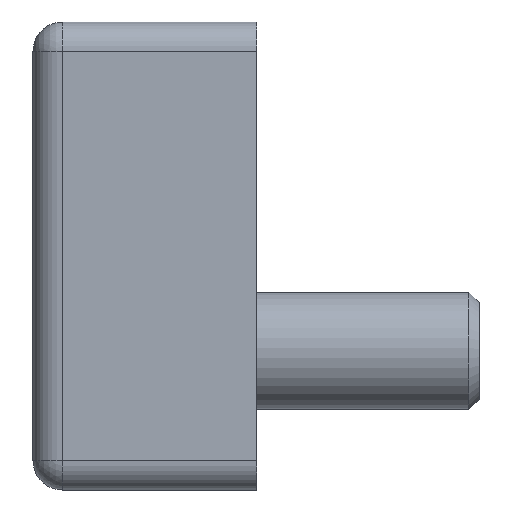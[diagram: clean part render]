
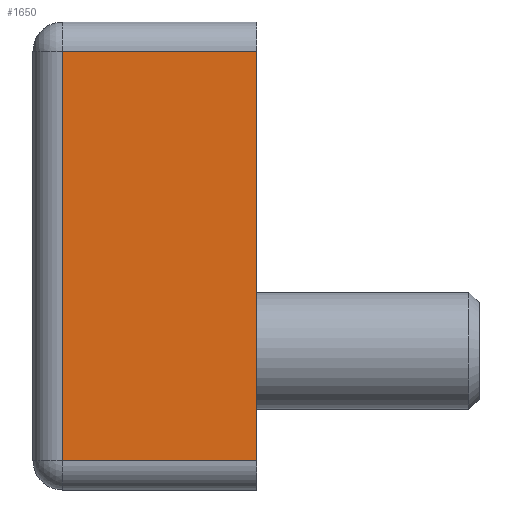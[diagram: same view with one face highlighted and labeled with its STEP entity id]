
A CAD part, left-side view. The second image highlights one B-rep face of the part: STEP entity #1650.
In plain terms, the highlighted planar face has unit normal (-1, 0, 0).
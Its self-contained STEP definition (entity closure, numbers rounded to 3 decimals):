
#45 = EDGE_LOOP ( 'NONE', ( #2270, #435, #2021, #2615 ) ) ;
#52 = LINE ( 'NONE', #1999, #224 ) ;
#224 = VECTOR ( 'NONE', #3127, 1000. ) ;
#267 = DIRECTION ( 'NONE',  ( 0., 0., -1. ) ) ;
#435 = ORIENTED_EDGE ( 'NONE', *, *, #662, .T. ) ;
#541 = CARTESIAN_POINT ( 'NONE',  ( -36.43, -9.825, -17.045 ) ) ;
#662 = EDGE_CURVE ( 'NONE', #2108, #1254, #52, .T. ) ;
#784 = LINE ( 'NONE', #2477, #3476 ) ;
#824 = DIRECTION ( 'NONE',  ( 0., 1., 0. ) ) ;
#869 = CARTESIAN_POINT ( 'NONE',  ( -36.43, 3.475, -19.045 ) ) ;
#1005 = DIRECTION ( 'NONE',  ( -1., 0., 0. ) ) ;
#1246 = VECTOR ( 'NONE', #267, 1000. ) ;
#1254 = VERTEX_POINT ( 'NONE', #541 ) ;
#1329 = DIRECTION ( 'NONE',  ( 0., 0., 1. ) ) ;
#1404 = LINE ( 'NONE', #869, #1246 ) ;
#1429 = CARTESIAN_POINT ( 'NONE',  ( -36.43, -9.825, 10.955 ) ) ;
#1481 = AXIS2_PLACEMENT_3D ( 'NONE', #1562, #1005, #2421 ) ;
#1491 = VERTEX_POINT ( 'NONE', #2547 ) ;
#1499 = EDGE_CURVE ( 'NONE', #1491, #2108, #1404, .T. ) ;
#1562 = CARTESIAN_POINT ( 'NONE',  ( -36.43, -9.825, -19.045 ) ) ;
#1650 = ADVANCED_FACE ( 'NONE', ( #2156 ), #2656, .T. ) ;
#1694 = CARTESIAN_POINT ( 'NONE',  ( -36.43, 3.475, -17.045 ) ) ;
#1999 = CARTESIAN_POINT ( 'NONE',  ( -36.43, -9.825, -17.045 ) ) ;
#2021 = ORIENTED_EDGE ( 'NONE', *, *, #3633, .T. ) ;
#2077 = VERTEX_POINT ( 'NONE', #1429 ) ;
#2108 = VERTEX_POINT ( 'NONE', #1694 ) ;
#2156 = FACE_OUTER_BOUND ( 'NONE', #45, .T. ) ;
#2198 = CARTESIAN_POINT ( 'NONE',  ( -36.43, -9.825, 10.955 ) ) ;
#2270 = ORIENTED_EDGE ( 'NONE', *, *, #1499, .T. ) ;
#2359 = VECTOR ( 'NONE', #824, 1000. ) ;
#2421 = DIRECTION ( 'NONE',  ( 0., 0., 1. ) ) ;
#2477 = CARTESIAN_POINT ( 'NONE',  ( -36.43, -9.825, -19.045 ) ) ;
#2547 = CARTESIAN_POINT ( 'NONE',  ( -36.43, 3.475, 10.955 ) ) ;
#2615 = ORIENTED_EDGE ( 'NONE', *, *, #2622, .T. ) ;
#2622 = EDGE_CURVE ( 'NONE', #2077, #1491, #3362, .T. ) ;
#2656 = PLANE ( 'NONE',  #1481 ) ;
#3127 = DIRECTION ( 'NONE',  ( 0., -1., 0. ) ) ;
#3362 = LINE ( 'NONE', #2198, #2359 ) ;
#3476 = VECTOR ( 'NONE', #1329, 1000. ) ;
#3633 = EDGE_CURVE ( 'NONE', #1254, #2077, #784, .T. ) ;
